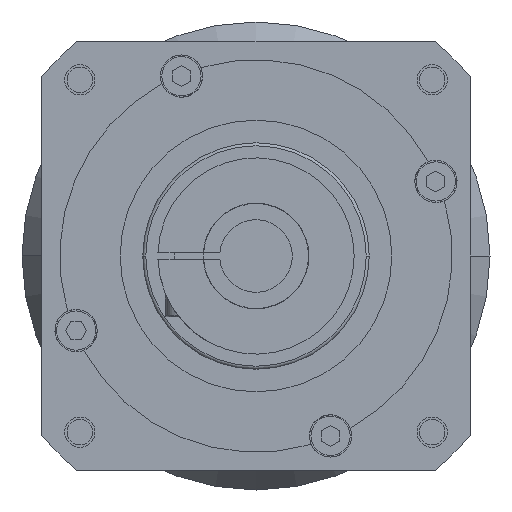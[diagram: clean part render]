
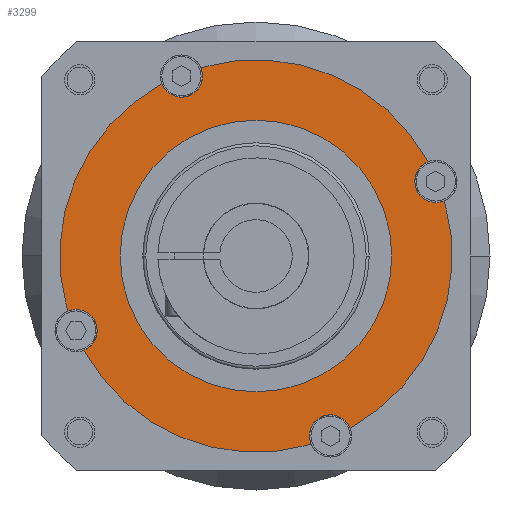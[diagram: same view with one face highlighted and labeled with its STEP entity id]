
A CAD part, left-side view. The second image highlights one B-rep face of the part: STEP entity #3299.
In plain terms, the highlighted planar face has unit normal (-1, 0, 0).
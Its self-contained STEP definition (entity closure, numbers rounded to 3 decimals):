
#576=CARTESIAN_POINT('',(5.,0.,0.));
#577=DIRECTION('',(1.,0.,0.));
#578=DIRECTION('',(0.,0.281,0.96));
#579=AXIS2_PLACEMENT_3D('',#576,#577,#578);
#581=CARTESIAN_POINT('',(5.,0.,0.));
#582=DIRECTION('',(-1.,0.,0.));
#583=DIRECTION('',(0.,-0.48,-0.877));
#584=AXIS2_PLACEMENT_3D('',#581,#582,#583);
#607=CARTESIAN_POINT('',(5.,0.,0.));
#608=DIRECTION('',(-1.,0.,0.));
#609=DIRECTION('',(0.,0.877,-0.48));
#610=AXIS2_PLACEMENT_3D('',#607,#608,#609);
#621=CARTESIAN_POINT('',(5.,0.,0.));
#622=DIRECTION('',(-1.,0.,0.));
#623=DIRECTION('',(0.,0.48,0.877));
#624=AXIS2_PLACEMENT_3D('',#621,#622,#623);
#634=CARTESIAN_POINT('',(5.,0.,0.));
#635=DIRECTION('',(-1.,0.,0.));
#636=DIRECTION('',(0.,1.,0.));
#637=AXIS2_PLACEMENT_3D('',#634,#635,#636);
#639=CARTESIAN_POINT('',(5.,0.,0.));
#640=DIRECTION('',(1.,0.,0.));
#641=DIRECTION('',(0.,1.,0.));
#642=AXIS2_PLACEMENT_3D('',#639,#640,#641);
#644=CARTESIAN_POINT('',(5.,-24.683,-59.59));
#645=DIRECTION('',(-1.,0.,0.));
#646=DIRECTION('',(0.,-0.93,0.367));
#647=AXIS2_PLACEMENT_3D('',#644,#645,#646);
#649=CARTESIAN_POINT('',(5.,-24.683,-59.59));
#650=DIRECTION('',(-1.,0.,0.));
#651=DIRECTION('',(0.,0.,1.));
#652=AXIS2_PLACEMENT_3D('',#649,#650,#651);
#654=CARTESIAN_POINT('',(5.,59.59,-24.683));
#655=DIRECTION('',(-1.,0.,0.));
#656=DIRECTION('',(0.,-0.367,-0.93));
#657=AXIS2_PLACEMENT_3D('',#654,#655,#656);
#659=CARTESIAN_POINT('',(5.,59.59,-24.683));
#660=DIRECTION('',(-1.,0.,0.));
#661=DIRECTION('',(0.,0.,1.));
#662=AXIS2_PLACEMENT_3D('',#659,#660,#661);
#664=CARTESIAN_POINT('',(5.,24.683,59.59));
#665=DIRECTION('',(-1.,0.,0.));
#666=DIRECTION('',(0.,0.93,-0.367));
#667=AXIS2_PLACEMENT_3D('',#664,#665,#666);
#669=CARTESIAN_POINT('',(5.,24.683,59.59));
#670=DIRECTION('',(-1.,0.,0.));
#671=DIRECTION('',(0.,0.,-1.));
#672=AXIS2_PLACEMENT_3D('',#669,#670,#671);
#674=CARTESIAN_POINT('',(5.,-59.59,24.683));
#675=DIRECTION('',(-1.,0.,0.));
#676=DIRECTION('',(0.,0.367,0.93));
#677=AXIS2_PLACEMENT_3D('',#674,#675,#676);
#679=CARTESIAN_POINT('',(5.,-59.59,24.683));
#680=DIRECTION('',(-1.,0.,0.));
#681=DIRECTION('',(0.,0.,-1.));
#682=AXIS2_PLACEMENT_3D('',#679,#680,#681);
#1811=CARTESIAN_POINT('',(5.,-45.,0.));
#1813=VERTEX_POINT('',#1811);
#1815=CARTESIAN_POINT('',(5.,45.,0.));
#1817=VERTEX_POINT('',#1815);
#1941=CARTESIAN_POINT('',(5.,-24.683,-52.59));
#1942=VERTEX_POINT('',#1941);
#1943=CARTESIAN_POINT('',(5.,24.683,52.59));
#1944=VERTEX_POINT('',#1943);
#1945=CARTESIAN_POINT('',(5.,59.59,-17.683));
#1946=VERTEX_POINT('',#1945);
#2215=CARTESIAN_POINT('',(5.,-31.196,-57.025));
#2216=VERTEX_POINT('',#2215);
#2217=CARTESIAN_POINT('',(5.,-18.264,-62.381));
#2218=VERTEX_POINT('',#2217);
#2219=CARTESIAN_POINT('',(5.,18.264,62.381));
#2220=VERTEX_POINT('',#2219);
#2221=CARTESIAN_POINT('',(5.,31.196,57.025));
#2222=VERTEX_POINT('',#2221);
#2223=CARTESIAN_POINT('',(5.,57.025,-31.196));
#2224=VERTEX_POINT('',#2223);
#2225=CARTESIAN_POINT('',(5.,62.381,-18.264));
#2226=VERTEX_POINT('',#2225);
#2227=CARTESIAN_POINT('',(5.,-59.59,17.683));
#2228=CARTESIAN_POINT('',(5.,-62.381,18.264));
#2229=VERTEX_POINT('',#2227);
#2230=VERTEX_POINT('',#2228);
#2231=CARTESIAN_POINT('',(5.,-57.025,31.196));
#2232=VERTEX_POINT('',#2231);
#3269=CARTESIAN_POINT('',(5.,0.,0.));
#3270=DIRECTION('',(1.,0.,0.));
#3271=DIRECTION('',(0.,1.,0.));
#3272=AXIS2_PLACEMENT_3D('',#3269,#3270,#3271);
#3273=PLANE('',#3272);
#3274=ORIENTED_EDGE('',*,*,#3169,.T.);
#3275=ORIENTED_EDGE('',*,*,#3184,.T.);
#3276=ORIENTED_EDGE('',*,*,#3231,.F.);
#3278=ORIENTED_EDGE('',*,*,#3277,.T.);
#3280=ORIENTED_EDGE('',*,*,#3279,.T.);
#3281=ORIENTED_EDGE('',*,*,#3244,.F.);
#3283=ORIENTED_EDGE('',*,*,#3282,.T.);
#3284=ORIENTED_EDGE('',*,*,#3258,.T.);
#3285=ORIENTED_EDGE('',*,*,#3203,.T.);
#3287=ORIENTED_EDGE('',*,*,#3286,.T.);
#3289=ORIENTED_EDGE('',*,*,#3288,.T.);
#3290=ORIENTED_EDGE('',*,*,#3213,.F.);
#3291=EDGE_LOOP('',(#3274,#3275,#3276,#3278,#3280,#3281,#3283,#3284,#3285,#3287,
#3289,#3290));
#3292=FACE_OUTER_BOUND('',#3291,.F.);
#3294=ORIENTED_EDGE('',*,*,#3293,.T.);
#3296=ORIENTED_EDGE('',*,*,#3295,.F.);
#3297=EDGE_LOOP('',(#3294,#3296));
#3298=FACE_BOUND('',#3297,.F.);
#580=CIRCLE('',#579,65.);
#585=CIRCLE('',#584,65.);
#611=CIRCLE('',#610,65.);
#625=CIRCLE('',#624,65.);
#638=CIRCLE('',#637,45.);
#643=CIRCLE('',#642,45.);
#648=CIRCLE('',#647,7.);
#653=CIRCLE('',#652,7.);
#658=CIRCLE('',#657,7.);
#663=CIRCLE('',#662,7.);
#668=CIRCLE('',#667,7.);
#673=CIRCLE('',#672,7.);
#678=CIRCLE('',#677,7.);
#683=CIRCLE('',#682,7.);
#3169=EDGE_CURVE('',#2216,#1942,#648,.T.);
#3184=EDGE_CURVE('',#1942,#2218,#653,.T.);
#3203=EDGE_CURVE('',#2220,#2232,#580,.T.);
#3213=EDGE_CURVE('',#2216,#2230,#585,.T.);
#3231=EDGE_CURVE('',#2224,#2218,#611,.T.);
#3244=EDGE_CURVE('',#2222,#2226,#625,.T.);
#3258=EDGE_CURVE('',#1944,#2220,#673,.T.);
#3277=EDGE_CURVE('',#2224,#1946,#658,.T.);
#3279=EDGE_CURVE('',#1946,#2226,#663,.T.);
#3282=EDGE_CURVE('',#2222,#1944,#668,.T.);
#3286=EDGE_CURVE('',#2232,#2229,#678,.T.);
#3288=EDGE_CURVE('',#2229,#2230,#683,.T.);
#3293=EDGE_CURVE('',#1817,#1813,#638,.T.);
#3295=EDGE_CURVE('',#1817,#1813,#643,.T.);
#3299=ADVANCED_FACE('',(#3292,#3298),#3273,.F.);
